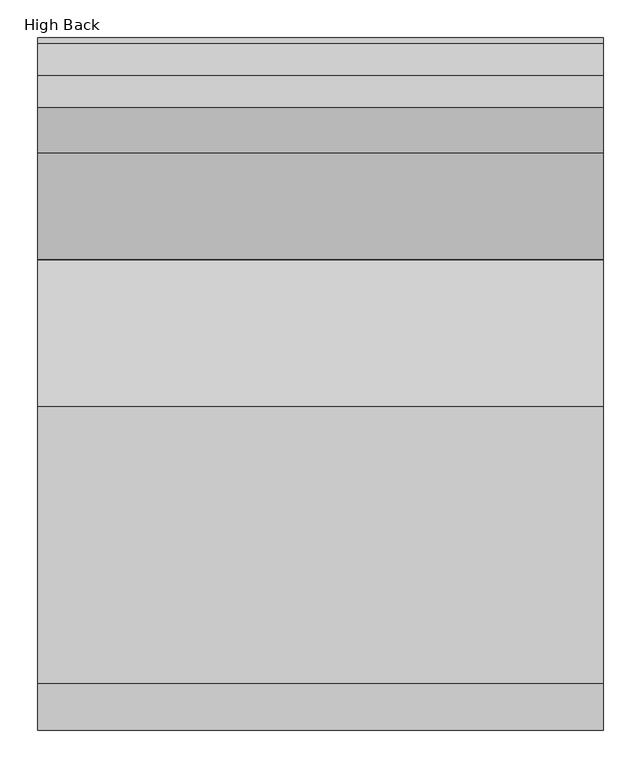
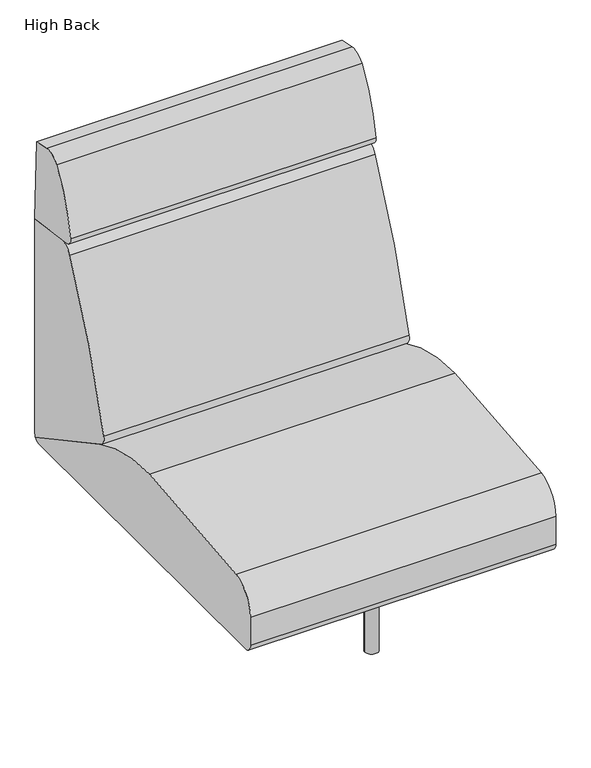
"""IFC4 building model written with IfcOpenShell, lengths in millimetres: furniture geometry, Coalesse_AM_Seating_LoungeChair_Sistema_LegBase_OneSeatConnector : High Back."""

from ifc_helpers import new_model, si_unit, point, frame, frame_2d, origin, origin_with_axes, place, context, project, spatial, polyline, circle_curve, trimmed, segment, composite_curve, outline, extrude, source, transform, mapped, element, save


def high_back_c0c03560(model_context):
    return source(origin(), model_context, "Body", "SweptSolid", [
        extrude(outline(composite_curve([segment(trimmed(circle_curve(frame_2d((0.0, 335.9943389)), 6.096), [point((-6.096, 335.9943389))], [point((6.096, 335.9943389))], False, "CARTESIAN"), True, "CONTINUOUS"), segment(trimmed(circle_curve(frame_2d((0.0, 335.9943389)), 6.096), [point((6.096, 335.9943389))], [point((-6.096, 335.9943389))], False, "CARTESIAN"), True, "CONTINUOUS")], self_intersect=False)), origin_with_axes(), (0.0, 0.0, 1.0), 4.3662291),
        extrude(outline(composite_curve([segment(trimmed(circle_curve(frame_2d((0.0, -327.2630889)), 6.096), [point((-6.096, -327.2630889))], [point((6.096, -327.2630889))], False, "CARTESIAN"), True, "CONTINUOUS"), segment(trimmed(circle_curve(frame_2d((0.0, -327.2630889)), 6.096), [point((6.096, -327.2630889))], [point((-6.096, -327.2630889))], False, "CARTESIAN"), True, "CONTINUOUS")], self_intersect=False)), origin_with_axes(), (0.0, 0.0, 1.0), 4.3662291),
        extrude(outline(composite_curve([segment(trimmed(circle_curve(frame_2d((157.0399209, -9.5318523)), 3.048), [point((157.0399209, -12.5798523))], [point((153.9919209, -9.5318523))], False, "CARTESIAN"), True, "CONTINUOUS"), segment(polyline([(153.9919209, -9.5318523), (153.9919209, 9.7252509)]), True, "CONTINUOUS"), segment(trimmed(circle_curve(frame_2d((157.1249936, 9.7252509)), 3.1330728), [point((153.9919209, 9.7252509))], [point((157.1249936, 12.8583237))], False, "CARTESIAN"), True, "CONTINUOUS"), segment(polyline([(157.1249936, 12.8583237), (201.7356243, 12.8583237)]), True, "CONTINUOUS"), segment(trimmed(circle_curve(frame_2d((201.7356243, 9.8103237)), 3.048), [point((201.7356243, 12.8583237))], [point((204.7836243, 9.8103237))], False, "CARTESIAN"), True, "CONTINUOUS"), segment(polyline([(204.7836243, 9.8103237), (204.7836243, -9.5318523)]), True, "CONTINUOUS"), segment(trimmed(circle_curve(frame_2d((201.7356243, -9.5318523)), 3.048), [point((204.7836243, -9.5318523))], [point((201.7356243, -12.5798523))], False, "CARTESIAN"), True, "CONTINUOUS"), segment(polyline([(201.7356243, -12.5798523), (157.0399209, -12.5798523)]), True, "CONTINUOUS")], self_intersect=False)), frame((0.0, 222.3519802, 0.0), z_axis=(0.0, 1.0, 0.0), x_axis=(0.0, 0.0, 1.0)), (0.0, 0.0, 1.0), 92.6273161),
        extrude(outline(composite_curve([segment(trimmed(circle_curve(frame_2d((157.0399209, -9.5318523)), 3.048), [point((157.0399209, -12.5798523))], [point((153.9919209, -9.5318523))], False, "CARTESIAN"), True, "CONTINUOUS"), segment(polyline([(153.9919209, -9.5318523), (153.9919209, 9.7252509)]), True, "CONTINUOUS"), segment(trimmed(circle_curve(frame_2d((157.1249936, 9.7252509)), 3.1330728), [point((153.9919209, 9.7252509))], [point((157.1249936, 12.8583237))], False, "CARTESIAN"), True, "CONTINUOUS"), segment(polyline([(157.1249936, 12.8583237), (201.7356243, 12.8583237)]), True, "CONTINUOUS"), segment(trimmed(circle_curve(frame_2d((201.7356243, 9.8103237)), 3.048), [point((201.7356243, 12.8583237))], [point((204.7836243, 9.8103237))], False, "CARTESIAN"), True, "CONTINUOUS"), segment(polyline([(204.7836243, 9.8103237), (204.7836243, -9.5318523)]), True, "CONTINUOUS"), segment(trimmed(circle_curve(frame_2d((201.7356243, -9.5318523)), 3.048), [point((204.7836243, -9.5318523))], [point((201.7356243, -12.5798523))], False, "CARTESIAN"), True, "CONTINUOUS"), segment(polyline([(201.7356243, -12.5798523), (157.0399209, -12.5798523)]), True, "CONTINUOUS")], self_intersect=False)), frame((0.0, -314.9792963, 0.0), z_axis=(0.0, 1.0, 0.0), x_axis=(0.0, 0.0, 1.0)), (0.0, 0.0, 1.0), 92.6273161),
        extrude(outline(composite_curve([segment(polyline([(179.3836606, 22.6505283), (179.3836606, -22.0535686)]), True, "CONTINUOUS"), segment(trimmed(circle_curve(frame_2d((176.3356606, -22.0535686)), 3.048), [point((179.3836606, -22.0535686))], [point((176.3356606, -25.1015686))], False, "CARTESIAN"), True, "CONTINUOUS"), segment(polyline([(176.3356606, -25.1015686), (157.056462, -25.1015686)]), True, "CONTINUOUS"), segment(trimmed(circle_curve(frame_2d((157.056462, -22.0370274)), 3.0645412), [point((157.056462, -25.1015686))], [point((153.9919209, -22.0370274))], False, "CARTESIAN"), True, "CONTINUOUS"), segment(polyline([(153.9919209, -22.0370274), (153.9919209, 22.6505283)]), True, "CONTINUOUS"), segment(trimmed(circle_curve(frame_2d((157.0399209, 22.6505283)), 3.048), [point((153.9919209, 22.6505283))], [point((157.0399209, 25.6985283))], False, "CARTESIAN"), True, "CONTINUOUS"), segment(polyline([(157.0399209, 25.6985283), (176.3356606, 25.6985283)]), True, "CONTINUOUS"), segment(trimmed(circle_curve(frame_2d((176.3356606, 22.6505283)), 3.048), [point((176.3356606, 25.6985283))], [point((179.3836606, 22.6505283))], False, "CARTESIAN"), True, "CONTINUOUS")], self_intersect=False)), frame((0.0, -222.3519802, 0.0), z_axis=(0.0, 1.0, 0.0), x_axis=(0.0, 0.0, 1.0)), (0.0, 0.0, 1.0), 444.7039604),
        extrude(outline(composite_curve([segment(trimmed(circle_curve(frame_2d((0.0, 332.3095741)), 16.51), [point((-16.51, 332.3095741))], [point((16.51, 332.3095741))], False, "CARTESIAN"), True, "CONTINUOUS"), segment(trimmed(circle_curve(frame_2d((0.0, 332.3095741)), 16.51), [point((16.51, 332.3095741))], [point((-16.51, 332.3095741))], False, "CARTESIAN"), True, "CONTINUOUS")], self_intersect=False)), frame((0.0, 0.0, 4.3662291), z_axis=(0.0, 0.0, 1.0), x_axis=(1.0, 0.0, 0.0)), (0.0, 0.0, 1.0), 200.1037709),
        extrude(outline(composite_curve([segment(trimmed(circle_curve(frame_2d((0.396875, -327.5470741)), 16.51), [point((-16.113125, -327.5470741))], [point((16.906875, -327.5470741))], False, "CARTESIAN"), True, "CONTINUOUS"), segment(trimmed(circle_curve(frame_2d((0.396875, -327.5470741)), 16.51), [point((16.906875, -327.5470741))], [point((-16.113125, -327.5470741))], False, "CARTESIAN"), True, "CONTINUOUS")], self_intersect=False)), frame((0.0, 0.0, 4.3662291), z_axis=(0.0, 0.0, 1.0), x_axis=(1.0, 0.0, 0.0)), (0.0, 0.0, 1.0), 200.1037709),
        extrude(outline(composite_curve([segment(polyline([(452.2939254, 985.8889261), (459.4795619, 780.1192184), (322.8058002, 799.327463)]), True, "CONTINUOUS"), segment(trimmed(circle_curve(frame_2d((325.4570478, 818.1920697)), 19.05), [point((322.8058002, 799.327463))], [point((306.587929, 820.8110119))], False, "CARTESIAN"), True, "CONTINUOUS"), segment(trimmed(circle_curve(frame_2d((674.417331, 769.7580741)), 371.3554516), [point((306.587929, 820.8110119))], [point((366.960342, 978.0249014))], False, "CARTESIAN"), True, "CONTINUOUS"), segment(trimmed(circle_curve(frame_2d((400.7301888, 955.1497055)), 40.7881985), [point((366.960342, 978.0249014))], [point((409.2105321, 995.046584))], False, "CARTESIAN"), True, "CONTINUOUS"), segment(polyline([(409.2105321, 995.046584), (452.2939254, 985.8889261)]), True, "CONTINUOUS")], self_intersect=False)), frame((-374.8034773, 0.0, 0.0), z_axis=(1.0, 0.0, 0.0), x_axis=(0.0, 1.0, 0.0)), (0.0, 0.0, 1.0), 752.2863161),
        extrude(outline(composite_curve([segment(polyline([(459.4795619, 780.845009), (459.4795619, 228.1929806)]), True, "CONTINUOUS"), segment(trimmed(circle_curve(frame_2d((368.0585808, 228.1929806)), 91.4209812), [point((459.4795619, 228.1929806))], [point((458.1072738, 212.4123377))], False, "CARTESIAN"), True, "CONTINUOUS"), segment(polyline([(458.1072738, 212.4123377), (177.4990556, 364.1028799)]), True, "CONTINUOUS"), segment(trimmed(circle_curve(frame_2d((189.5778307, 386.4470781)), 25.4), [point((177.4990556, 364.1028799))], [point((164.9600055, 392.7018911))], False, "CARTESIAN"), True, "CONTINUOUS"), segment(trimmed(circle_curve(frame_2d((1918.112812, -52.7331923)), 1808.8552115), [point((164.9600055, 392.7018911))], [point((310.2880264, 776.0349508))], False, "CARTESIAN"), True, "CONTINUOUS"), segment(trimmed(circle_curve(frame_2d((344.1537133, 758.5785695)), 38.1), [point((310.2880264, 776.0349508))], [point((349.4562085, 796.3077829))], False, "CARTESIAN"), True, "CONTINUOUS"), segment(polyline([(349.4562085, 796.3077829), (459.4795619, 780.845009)]), True, "CONTINUOUS")], self_intersect=False)), frame((-374.8034773, 0.0, 0.0), z_axis=(1.0, 0.0, 0.0), x_axis=(0.0, 1.0, 0.0)), (0.0, 0.0, 1.0), 752.2863161),
        extrude(outline(composite_curve([segment(trimmed(circle_curve(frame_2d((-438.9184381, 228.2277814)), 22.352), [point((-438.9184381, 205.8757814))], [point((-461.2704381, 228.2277814))], False, "CARTESIAN"), True, "CONTINUOUS"), segment(polyline([(-461.2704381, 228.2277814), (-461.2704381, 301.4421993)]), True, "CONTINUOUS"), segment(trimmed(circle_curve(frame_2d((-385.0704381, 301.4421993)), 76.2), [point((-461.2704381, 301.4421993))], [point((-398.9277015, 376.3716077))], False, "CARTESIAN"), True, "CONTINUOUS"), segment(trimmed(circle_curve(frame_2d((2.2103559, -1792.6740646)), 2205.8265729), [point((-398.9277015, 376.3716077))], [point((-31.1968175, 412.8995185))], False, "CARTESIAN"), True, "CONTINUOUS"), segment(trimmed(circle_curve(frame_2d((-24.5128424, -28.3829182)), 441.333054), [point((-31.1968175, 412.8995185))], [point((184.5757008, 360.2774035))], False, "CARTESIAN"), True, "CONTINUOUS"), segment(polyline([(184.5757008, 360.2774035), (458.1072738, 212.4123377)]), True, "CONTINUOUS"), segment(trimmed(circle_curve(frame_2d((442.3266309, 228.1929806)), 22.3171991), [point((458.1072738, 212.4123377))], [point((442.3266309, 205.8757814))], False, "CARTESIAN"), True, "CONTINUOUS"), segment(polyline([(442.3266309, 205.8757814), (-438.9184381, 205.8757814)]), True, "CONTINUOUS")], self_intersect=False)), frame((-374.8034773, 0.0, 0.0), z_axis=(1.0, 0.0, 0.0), x_axis=(0.0, 1.0, 0.0)), (0.0, 0.0, 1.0), 752.2863161),
    ])


if __name__ == "__main__":
    model = new_model("IFC4")
    model_context = context("Model", 3, world=origin())
    ifc_project = project(units=[si_unit("LENGTHUNIT", "METRE", prefix="MILLI")], contexts=[model_context])
    site = spatial("IfcSite", under=ifc_project)
    building = spatial("IfcBuilding", under=site)
    placement = place(None, origin())
    high_back_shape = high_back_c0c03560(model_context)
    element("IfcFurniture", 1, ObjectType="Coalesse_AM_Seating_LoungeChair_Sistema_LegBase_OneSeatConnector : High Back", at=placement, inside=building, context=model_context, shape_type="MappedRepresentation", body=[
        mapped(high_back_shape, transform((0.0, 0.0, 0.0), x_axis=(1.0, 0.0, 0.0), y_axis=(0.0, 1.0, 0.0), z_axis=(0.0, 0.0, 1.0))),
    ])
    save(model, "model.ifc")
